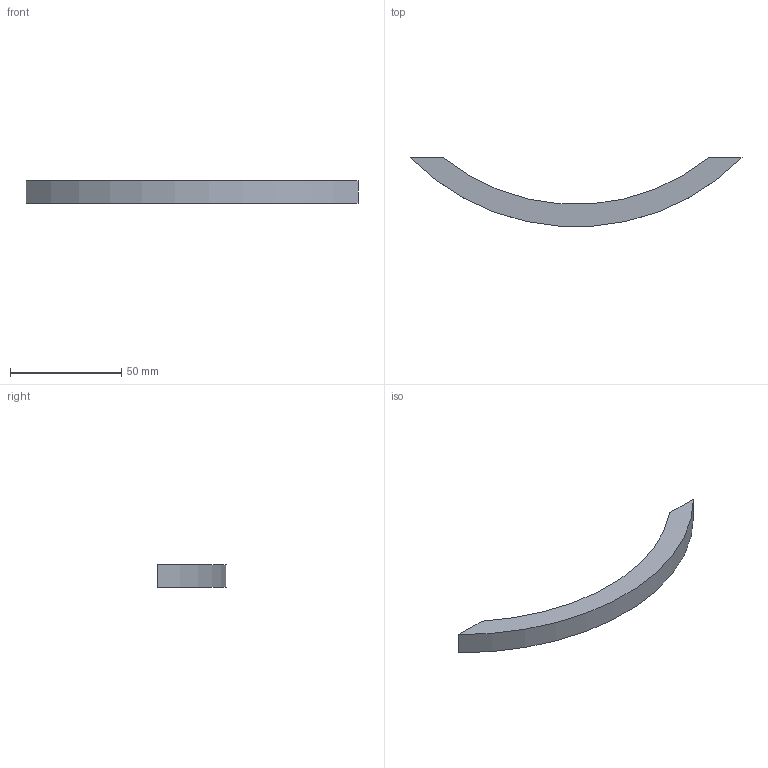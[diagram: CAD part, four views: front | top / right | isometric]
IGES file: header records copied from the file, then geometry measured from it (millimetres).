
Start section: Data from Parasolid IGES Translator 15.0.47, Copyright(c) 2006 Siemens P LM Software. All Rights Reserved.
Global section: file name: 9208046.igs; native system:  By UGS Corp.; preprocessor: XPlus GENERIC/IGES 3.0; author: Noname; organization: Noname; date: 20160303.183527; units: millimetre
Bounding box: 149 x 30.74 x 10 mm (x, y, z)
Surface area: 6324.1 mm2 (no closed solid volume)
Topology: 0 solids, 0 shells, 10 faces, 36 edges, 32 vertices
Faces by surface type: extrusion 6, revolution 4
